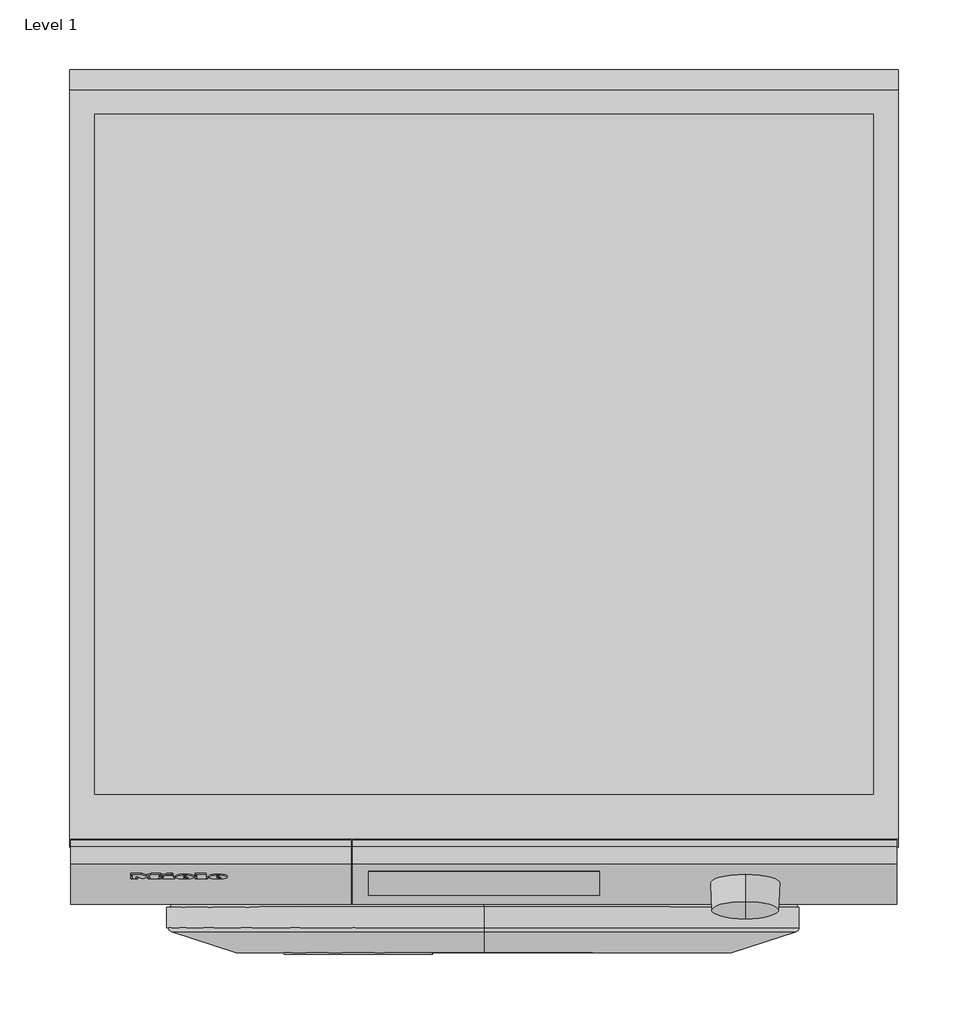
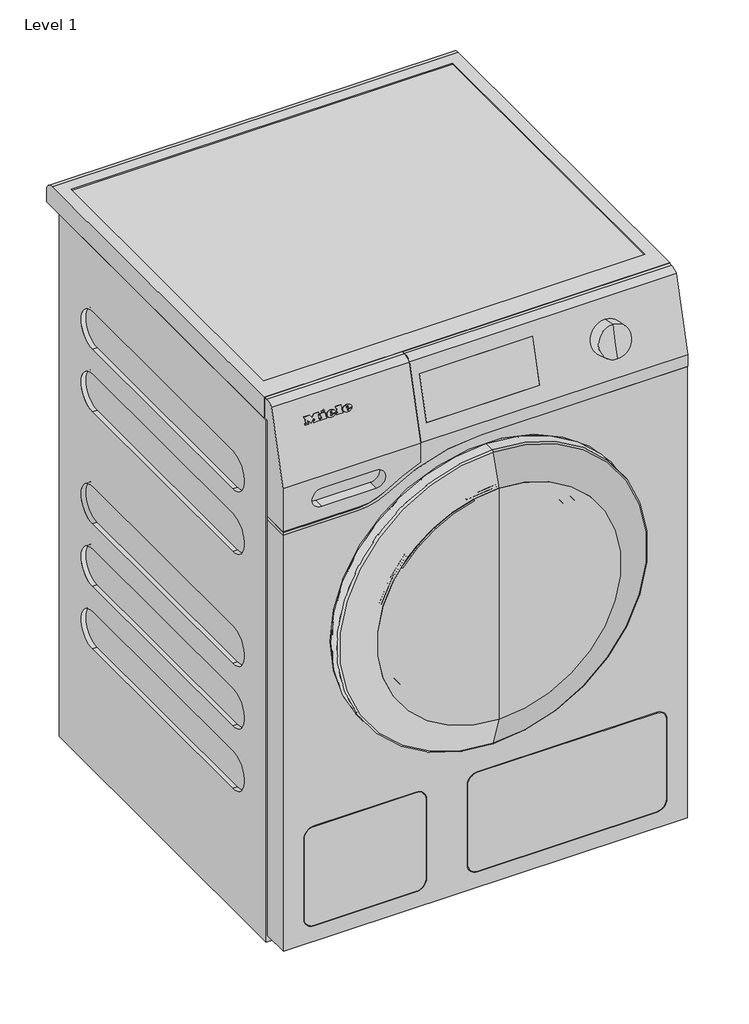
# One storey: 1 proxy.
"""IFC4 building model written with IfcOpenShell, lengths in millimetres."""

from ifc_helpers import new_model, si_unit, origin, place, context, project, spatial, transform, mapped, element, save
from components import specialty_equipment_ca2fa9b3, specialty_equipment_badbdaf0

model = new_model("IFC4")

# Units and contexts
model_context = context("Model", 3, world=origin())
ifc_project = project(units=[si_unit("LENGTHUNIT", "METRE", prefix="MILLI")], contexts=[model_context])

# Site, building, storey
site = spatial("IfcSite", under=ifc_project)
building = spatial("IfcBuilding", under=site)
storey = spatial("IfcBuildingStorey", under=building, Name="Level 1", Elevation=0.0)

# Proxy
placement = place(None, origin())
specialty_equipment_shape = specialty_equipment_ca2fa9b3(model_context)
specialty_equipment_2_shape = specialty_equipment_badbdaf0(model_context)
element("IfcBuildingElementProxy", 1, Name="11609750_I_WED675WCS_LW : 11ED6751_I_11609750_WED675WCS_LW", ObjectType="11609750_I_WED675WCS_LW : 11ED6751_I_11609750_WED675WCS_LW", at=placement, inside=storey, context=model_context, shape_type="MappedRepresentation", body=[
    mapped(specialty_equipment_shape, transform((0.0, 0.0, 0.0), x_axis=(1.0, 0.0, 0.0), y_axis=(0.0, 1.0, 0.0), z_axis=(0.0, 0.0, 1.0))),
    mapped(specialty_equipment_2_shape, transform((0.0, 0.0, 0.0), x_axis=(1.0, 0.0, 0.0), y_axis=(0.0, 1.0, 0.0), z_axis=(0.0, 0.0, 1.0))),
])

save(model, "model.ifc")
